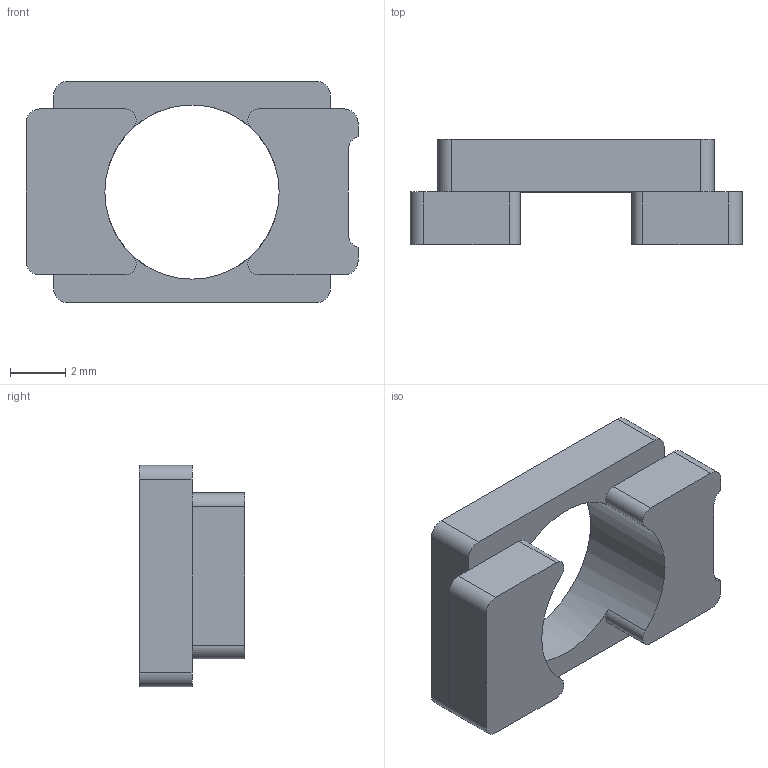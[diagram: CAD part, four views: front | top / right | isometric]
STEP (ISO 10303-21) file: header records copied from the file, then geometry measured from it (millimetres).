
FILE_DESCRIPTION(/* description */ ('STEP AP214'),/* implementation_level */ '2;1');
FILE_NAME(/* name */ 'Nutenstein GN 938.1-ZD-6',/* time_stamp */ '2024-03-14T08:40:39+01:00',/* author */ ('License CC BY-ND 4.0'),/* organization */ ('CADENAS'),/* preprocessor_version */ 'ST-DEVELOPER v19.3',/* originating_system */ 'PARTsolutions',/* authorisation */ ' ');
FILE_SCHEMA (('AUTOMOTIVE_DESIGN {1 0 10303 214 3 1 1}'));
Length unit declared in the file: millimetre
Products named in the file (1): Nutenstein GN 938.1-ZD-6
Bounding box: 12 x 3.8 x 8 mm (x, y, z)
Volume: 165.5 mm3; surface area: 298.5 mm2
Topology: 1 solids, 1 shells, 34 faces, 95 edges, 62 vertices
Faces by surface type: plane 19, cylinder 15
Full cylindrical faces by diameter (mm): 6.3 x1
Entity records: 1120 total; most frequent: DIRECTION 196, CARTESIAN_POINT 189, ORIENTED_EDGE 186, EDGE_CURVE 93, AXIS2_PLACEMENT_3D 68, VERTEX_POINT 61, LINE 60, VECTOR 60
